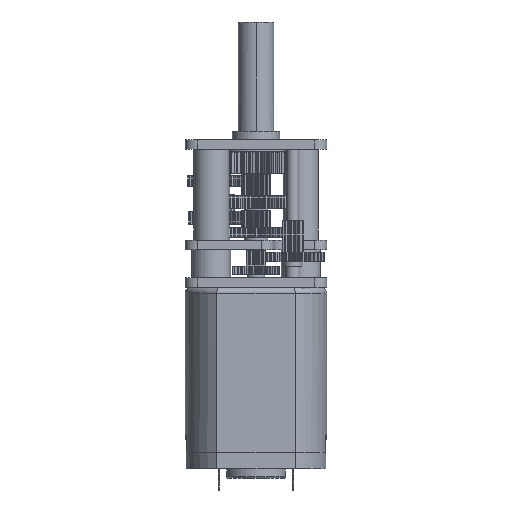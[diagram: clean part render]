
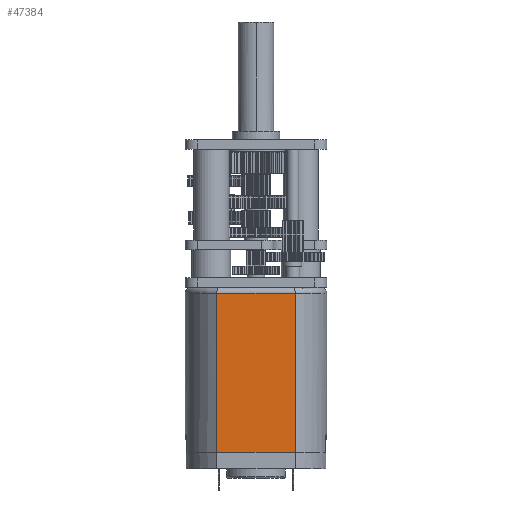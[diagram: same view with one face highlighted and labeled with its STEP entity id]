
A CAD part, front view. The second image highlights one B-rep face of the part: STEP entity #47384.
In plain terms, the highlighted planar face has unit normal (0, -1, 0).
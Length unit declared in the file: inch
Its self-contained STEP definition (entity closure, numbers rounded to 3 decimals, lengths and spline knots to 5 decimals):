
#790 = VERTEX_POINT ( 'NONE', #42147 ) ;
#3646 = CARTESIAN_POINT ( 'NONE',  ( -0.13058, -0.19685, -0.01969 ) ) ;
#5851 = EDGE_CURVE ( 'NONE', #90200, #790, #86921, .T. ) ;
#6447 = ORIENTED_EDGE ( 'NONE', *, *, #5851, .T. ) ;
#11320 = VECTOR ( 'NONE', #111424, 39.37008 ) ;
#23985 = ORIENTED_EDGE ( 'NONE', *, *, #138285, .T. ) ;
#30460 = VECTOR ( 'NONE', #30535, 39.37008 ) ;
#30535 = DIRECTION ( 'NONE',  ( 0., 0., 1. ) ) ;
#34068 = CARTESIAN_POINT ( 'NONE',  ( 0.13058, -0.19685, -0.55118 ) ) ;
#41152 = CARTESIAN_POINT ( 'NONE',  ( -0.04353, -0.19685, -0.55118 ) ) ;
#42147 = CARTESIAN_POINT ( 'NONE',  ( 0.13058, -0.19685, -0.01969 ) ) ;
#47384 = ADVANCED_FACE ( 'NONE', ( #107543 ), #77987, .T. ) ;
#51153 = B_SPLINE_CURVE_WITH_KNOTS ( 'NONE', 3,
 ( #144338, #41152, #80567, #117509 ),
 .UNSPECIFIED., .F., .F.,
 ( 4, 4 ),
 ( 0., 1. ),
 .UNSPECIFIED. ) ;
#54222 = CARTESIAN_POINT ( 'NONE',  ( 0., -0.19685, -0.01969 ) ) ;
#57453 = CARTESIAN_POINT ( 'NONE',  ( -0.13057, -0.19683, -0.55118 ) ) ;
#61457 = AXIS2_PLACEMENT_3D ( 'NONE', #104900, #78878, #176488 ) ;
#68310 = VERTEX_POINT ( 'NONE', #57453 ) ;
#77552 = VECTOR ( 'NONE', #135322, 39.37008 ) ;
#77987 = PLANE ( 'NONE',  #61457 ) ;
#78878 = DIRECTION ( 'NONE',  ( 0., -1., 0. ) ) ;
#79943 = CARTESIAN_POINT ( 'NONE',  ( -0.13058, -0.19685, -0.55118 ) ) ;
#80567 = CARTESIAN_POINT ( 'NONE',  ( 0.04353, -0.19685, -0.55118 ) ) ;
#84994 = EDGE_CURVE ( 'NONE', #790, #160086, #163423, .T. ) ;
#86921 = LINE ( 'NONE', #34068, #30460 ) ;
#90200 = VERTEX_POINT ( 'NONE', #119655 ) ;
#104900 = CARTESIAN_POINT ( 'NONE',  ( 0., -0.19685, -0.55118 ) ) ;
#107543 = FACE_OUTER_BOUND ( 'NONE', #131351, .T. ) ;
#111424 = DIRECTION ( 'NONE',  ( -1., 0., 0. ) ) ;
#117509 = CARTESIAN_POINT ( 'NONE',  ( 0.13057, -0.19683, -0.55118 ) ) ;
#119655 = CARTESIAN_POINT ( 'NONE',  ( 0.13057, -0.19683, -0.55118 ) ) ;
#121806 = ORIENTED_EDGE ( 'NONE', *, *, #142349, .F. ) ;
#121940 = LINE ( 'NONE', #79943, #77552 ) ;
#131351 = EDGE_LOOP ( 'NONE', ( #6447, #149295, #121806, #23985 ) ) ;
#135322 = DIRECTION ( 'NONE',  ( 0., 0., 1. ) ) ;
#138285 = EDGE_CURVE ( 'NONE', #68310, #90200, #51153, .T. ) ;
#142349 = EDGE_CURVE ( 'NONE', #68310, #160086, #121940, .T. ) ;
#144338 = CARTESIAN_POINT ( 'NONE',  ( -0.13057, -0.19683, -0.55118 ) ) ;
#149295 = ORIENTED_EDGE ( 'NONE', *, *, #84994, .T. ) ;
#160086 = VERTEX_POINT ( 'NONE', #3646 ) ;
#163423 = LINE ( 'NONE', #54222, #11320 ) ;
#176488 = DIRECTION ( 'NONE',  ( 1., 0., 0. ) ) ;
